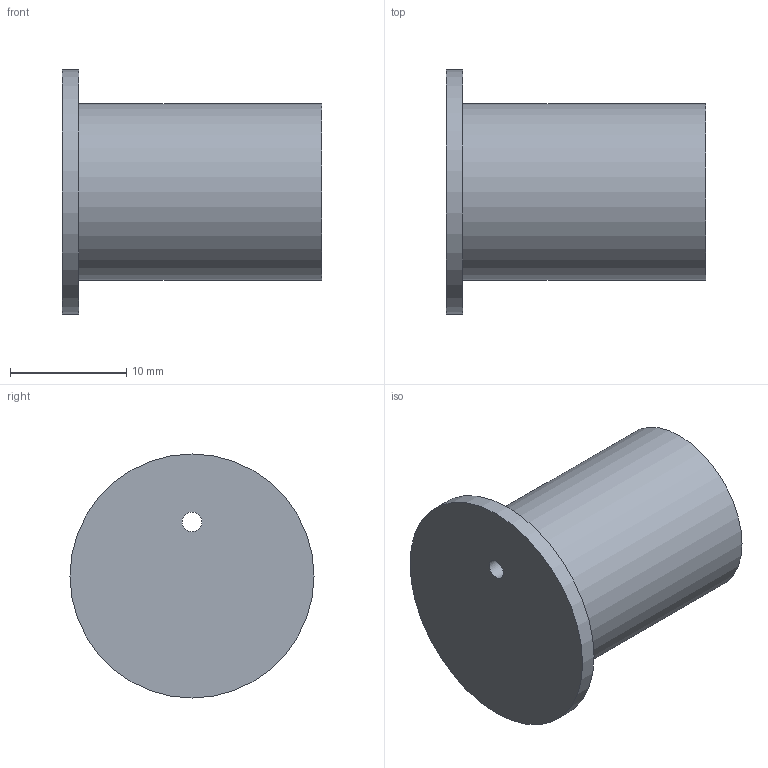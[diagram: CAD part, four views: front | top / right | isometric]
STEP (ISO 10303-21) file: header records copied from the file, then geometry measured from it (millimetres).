
FILE_DESCRIPTION( ('This file contains a STEP AP42 implementation' ,'as created by ZW3D STEP Interface translator.') ,'2;1' );
FILE_NAME( 'OGW-16.stp' ,'26 519. 73156', (''), ('ZWCAD Software Co.'), 'Version 1.0', 'ZW3D to STEP translator', '' );
FILE_SCHEMA(('AP242_MANAGED_MODEL_BASED_3D_ENGINEERING_MIM_LF { 1 0 10303 442 1 1 4 }'));
Length unit declared in the file: millimetre
Products named in the file (1): 0
Bounding box: 22.3 x 21 x 21 mm (x, y, z)
Volume: 1414.1 mm3; surface area: 2652.7 mm2
Topology: 1 solids, 1 shells, 8 faces, 12 edges, 8 vertices
Faces by surface type: cylinder 4, plane 4
Full cylindrical faces by diameter (mm): 1.7 x1, 13.2 x1, 15.2 x1, 21 x1
Entity records: 216 total; most frequent: DIRECTION 38, CARTESIAN_POINT 29, ORIENTED_EDGE 24, AXIS2_PLACEMENT_3D 17, EDGE_CURVE 12, EDGE_LOOP 12, VERTEX_POINT 8, CIRCLE 8
